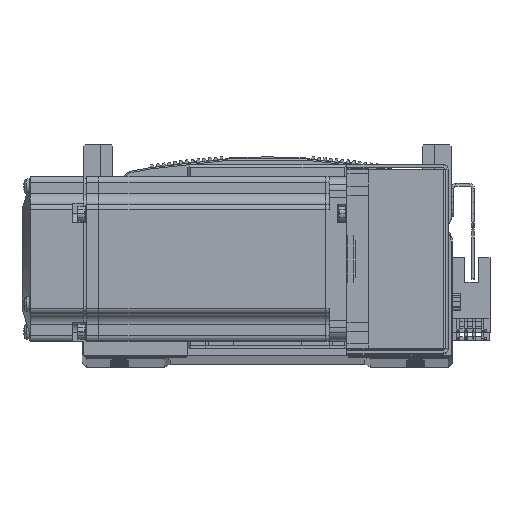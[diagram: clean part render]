
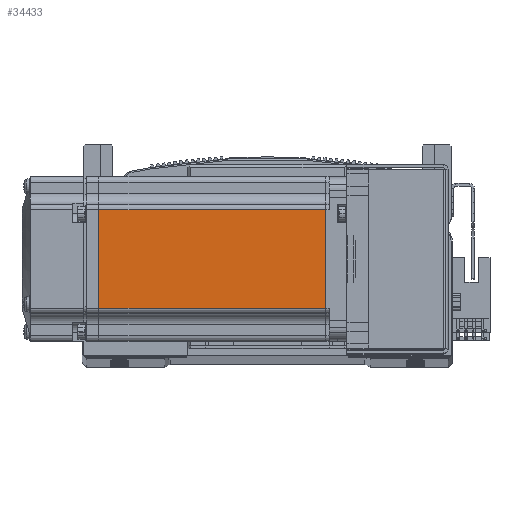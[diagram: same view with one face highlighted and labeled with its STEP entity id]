
A CAD part, top view. The second image highlights one B-rep face of the part: STEP entity #34433.
In plain terms, the highlighted planar face has unit normal (0, 0, 1) as drawn and (0, -1, 0) by its records, which use the part's own axes.
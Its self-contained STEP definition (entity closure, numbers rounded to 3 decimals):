
#3283 = CARTESIAN_POINT ( 'NONE',  ( -6.5, -30., -18. ) ) ;
#3416 = DIRECTION ( 'NONE',  ( -1., 0., 0. ) ) ;
#3681 = CARTESIAN_POINT ( 'NONE',  ( -6.5, -30., 18. ) ) ;
#3682 = DIRECTION ( 'NONE',  ( 0., 0., -1. ) ) ;
#3697 = CARTESIAN_POINT ( 'NONE',  ( -7.75, -30., 0. ) ) ;
#3699 = DIRECTION ( 'NONE',  ( -1., 0., 0. ) ) ;
#3710 = CARTESIAN_POINT ( 'NONE',  ( -90.45, -30., 0. ) ) ;
#3714 = DIRECTION ( 'NONE',  ( 0., 0., -1. ) ) ;
#11668 = ORIENTED_EDGE ( 'NONE', *, *, #54707, .F. ) ;
#11713 = ORIENTED_EDGE ( 'NONE', *, *, #54701, .T. ) ;
#11717 = ORIENTED_EDGE ( 'NONE', *, *, #54747, .F. ) ;
#11773 = ORIENTED_EDGE ( 'NONE', *, *, #54693, .T. ) ;
#15646 = LINE ( 'NONE', #3710, #15688 ) ;
#15647 = LINE ( 'NONE', #3697, #15689 ) ;
#15678 = LINE ( 'NONE', #3681, #15694 ) ;
#15688 = VECTOR ( 'NONE', #3682, 1000. ) ;
#15689 = VECTOR ( 'NONE', #3714, 1000. ) ;
#15694 = VECTOR ( 'NONE', #3699, 1000. ) ;
#15713 = VECTOR ( 'NONE', #3416, 1000. ) ;
#15746 = LINE ( 'NONE', #3283, #15713 ) ;
#34433 = ADVANCED_FACE ( 'NONE', ( #84793 ), #80733, .T. ) ;
#37121 = VERTEX_POINT ( 'NONE', #45670 ) ;
#37231 = VERTEX_POINT ( 'NONE', #45831 ) ;
#37289 = VERTEX_POINT ( 'NONE', #45874 ) ;
#37363 = VERTEX_POINT ( 'NONE', #45912 ) ;
#45670 = CARTESIAN_POINT ( 'NONE',  ( -90.45, -30., 18. ) ) ;
#45831 = CARTESIAN_POINT ( 'NONE',  ( -90.45, -30., -18. ) ) ;
#45874 = CARTESIAN_POINT ( 'NONE',  ( -7.75, -30., 18. ) ) ;
#45912 = CARTESIAN_POINT ( 'NONE',  ( -7.75, -30., -18. ) ) ;
#51728 = EDGE_LOOP ( 'NONE', ( #11668, #11773, #11713, #11717 ) ) ;
#54693 = EDGE_CURVE ( 'NONE', #37289, #37121, #15678, .T. ) ;
#54701 = EDGE_CURVE ( 'NONE', #37121, #37231, #15646, .T. ) ;
#54707 = EDGE_CURVE ( 'NONE', #37289, #37363, #15647, .T. ) ;
#54747 = EDGE_CURVE ( 'NONE', #37363, #37231, #15746, .T. ) ;
#80701 = CARTESIAN_POINT ( 'NONE',  ( -6.5, -30., -25. ) ) ;
#80720 = DIRECTION ( 'NONE',  ( 0., -1., 0. ) ) ;
#80733 = PLANE ( 'NONE',  #81804 ) ;
#80742 = DIRECTION ( 'NONE',  ( 0., 0., -1. ) ) ;
#81804 = AXIS2_PLACEMENT_3D ( 'NONE', #80701, #80720, #80742 ) ;
#84793 = FACE_OUTER_BOUND ( 'NONE', #51728, .T. ) ;
